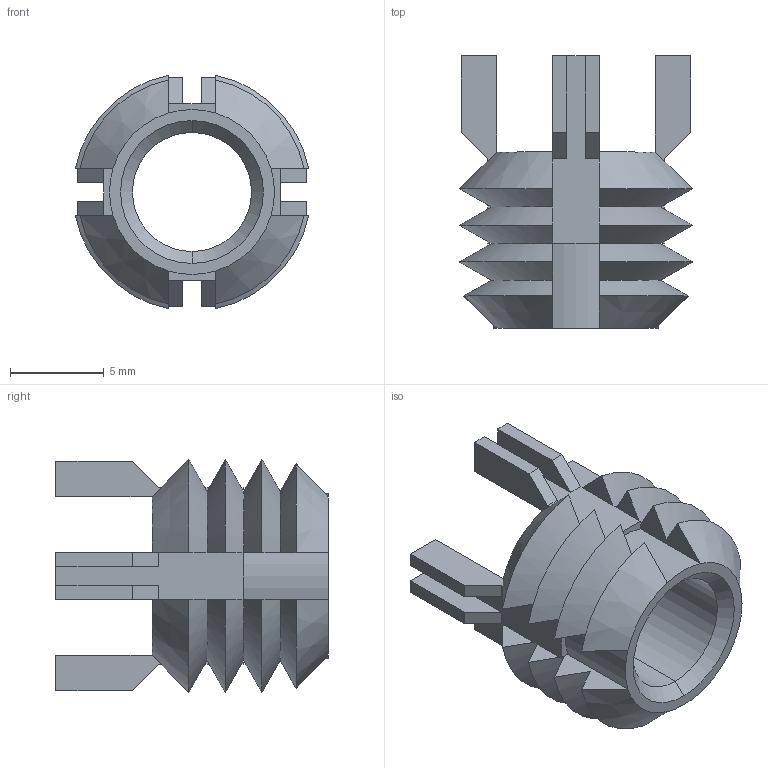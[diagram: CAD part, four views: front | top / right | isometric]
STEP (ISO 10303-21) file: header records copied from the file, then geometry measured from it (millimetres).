
FILE_DESCRIPTION (( 'STEP AP203' ), '1' );
FILE_NAME ('22024.W5340.step', '2020-01-04T21:55:46', ( '' ), ( '' ), 'SwSTEP 2.0', 'SolidWorks 2017', '' );
FILE_SCHEMA (( 'CONFIG_CONTROL_DESIGN' ));
Length unit declared in the file: millimetre
Products named in the file (1): 22024.W5340
Bounding box: 12.45 x 14.54 x 12.45 mm (x, y, z)
Volume: 556.1 mm3; surface area: 1039.7 mm2
Topology: 1 solids, 1 shells, 132 faces, 330 edges, 200 vertices
Faces by surface type: plane 90, cone 36, cylinder 6
Entity records: 4011 total; most frequent: CARTESIAN_POINT 975, ORIENTED_EDGE 660, DIRECTION 544, EDGE_CURVE 330, VERTEX_POINT 200, AXIS2_PLACEMENT_3D 185, VECTOR 174, LINE 174
